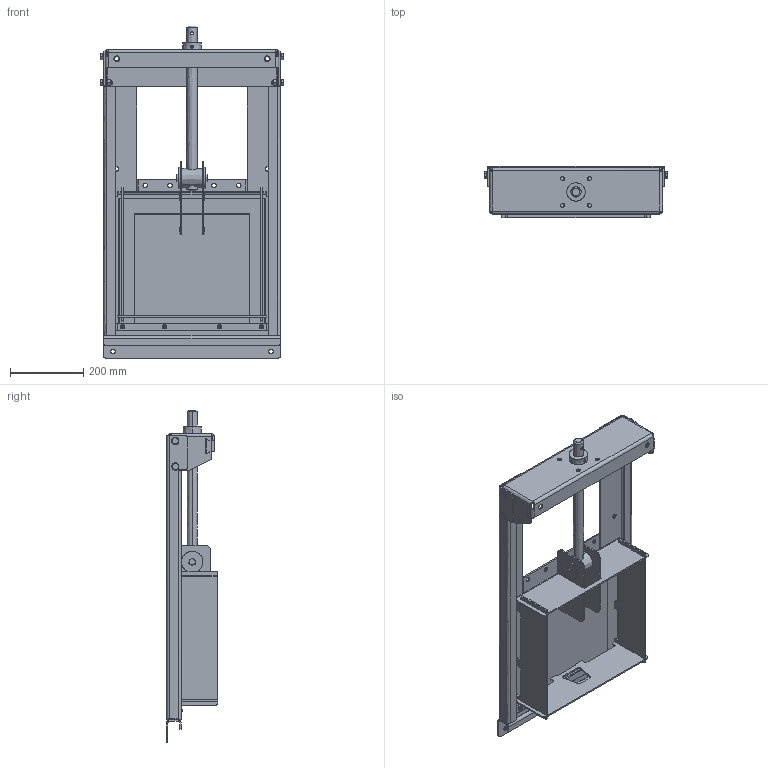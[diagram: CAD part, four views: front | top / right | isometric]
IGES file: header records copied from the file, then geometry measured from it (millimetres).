
Start section: SolidWorks IGES file using analytic representation for surfaces
Global section: file name: C:\Users\k.gigout\Desktop\3D\300x300\VGM620X-00EP0300.IGS; native system: SolidWorks 2017; preprocessor: SolidWorks 2017; author: k.gigout; date: 200410.113158; units: millimetre
Bounding box: 496.8 x 139 x 904 mm (x, y, z)
Surface area: 2153734.6 mm2 (no closed solid volume)
Topology: 0 solids, 0 shells, 1806 faces, 25376 edges, 25368 vertices
Faces by surface type: revolution 911, bspline 895
